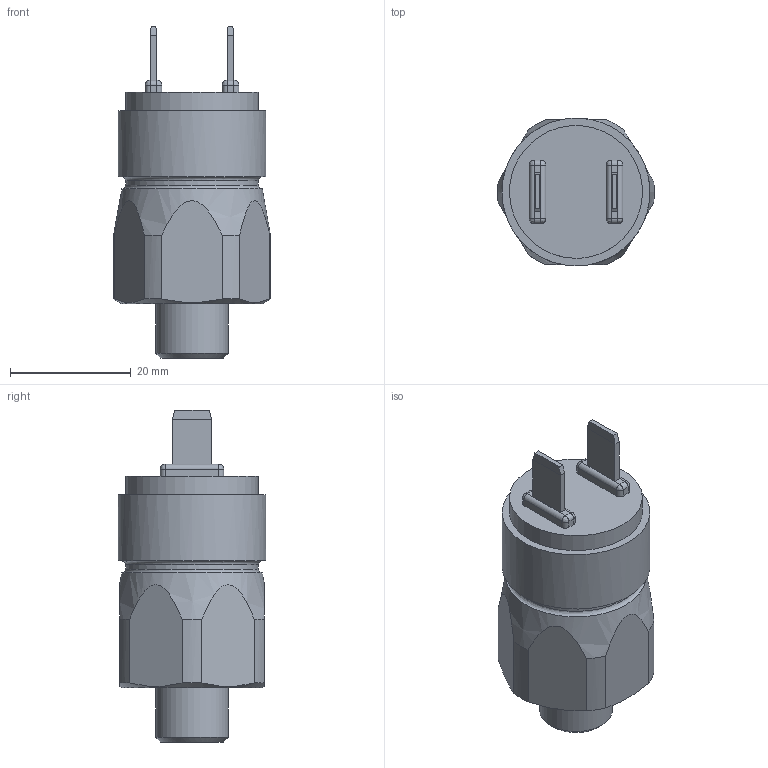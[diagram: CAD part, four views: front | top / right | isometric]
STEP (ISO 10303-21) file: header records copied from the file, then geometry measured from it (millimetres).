
FILE_DESCRIPTION((''),'2;1');
FILE_NAME('U:\Users\a.heinl\DG813_01.stp','2013-05-13T11:50:33',( 'User'),('SDRC'),'I-DEAS Master Series 9','UNIX','Yes');
FILE_SCHEMA(('AUTOMOTIVE_DESIGN { 1 0 10303 214 1 1 1 1 }'));
Length unit declared in the file: millimetre
Products named in the file (1): 13341900(259436)
Bounding box: 26 x 24.5 x 55 mm (x, y, z)
Volume: 17537 mm3; surface area: 4400.1 mm2
Topology: 1 solids, 1 shells, 78 faces, 180 edges, 103 vertices
Faces by surface type: bspline 78
Entity records: 2144 total; most frequent: CARTESIAN_POINT 1097, ORIENTED_EDGE 344, EDGE_CURVE 172, VERTEX_POINT 103, EDGE_LOOP 85, B_SPLINE_CURVE_WITH_KNOTS 80, FACE_OUTER_BOUND 78, ADVANCED_FACE 78
